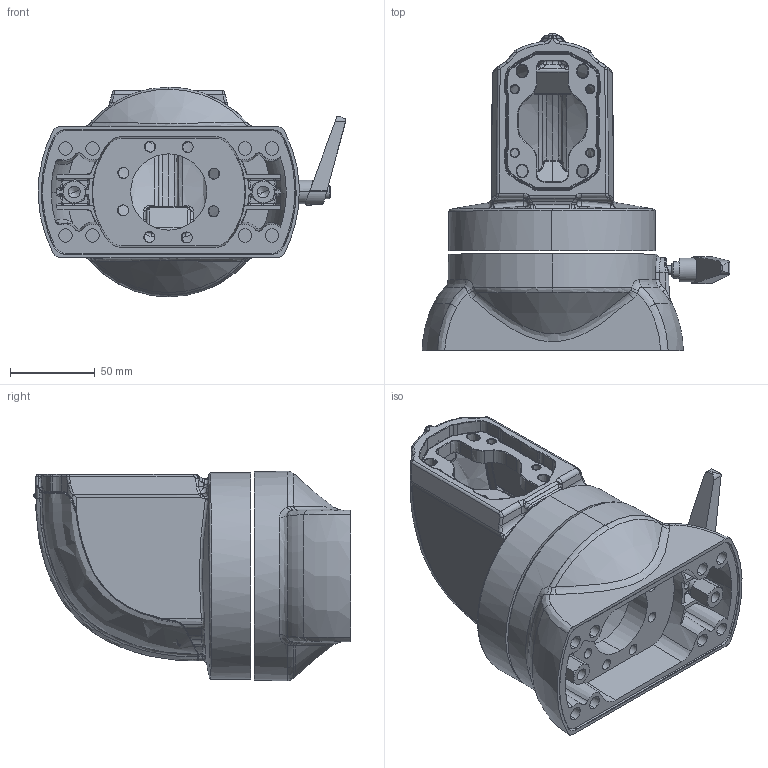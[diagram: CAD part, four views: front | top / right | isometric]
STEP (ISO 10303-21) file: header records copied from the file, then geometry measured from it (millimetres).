
FILE_DESCRIPTION (( 'STEP AP203' ), '1' );
FILE_NAME ('TP.060.2374.STEP', '2026-09-30T08:55:44', ( '' ), ( '' ), 'SwSTEP 2.0', 'SolidWorks 2015', '' );
FILE_SCHEMA (( 'CONFIG_CONTROL_DESIGN' ));
Products named in the file (8): TP.060.Serrated Washer; kapak vida; TP.060.700; TP.060.2374; TP.060.200_1; TP.060.200; Vida Yükseltme_TP060; TP.060.Kapak
Assembly tree (9 placements, depth 3):
  TP.060.2374
    TP.060.700
    TP.060.Serrated Washer
    TP.060.200_1
      TP.060.200
      TP.060.Kapak
    Vida Yükseltme_TP060  x2
    kapak vida  x2
Bounding box: 181.7 x 187.26 x 123.79 mm (x, y, z)
Volume: 304696.1 mm3; surface area: 186308.9 mm2
Topology: 7 solids, 11 shells, 3116 faces, 7678 edges, 4586 vertices
Faces by surface type: bspline 1960, plane 366, cylinder 358, cone 253, torus 133, sphere 46
Entity records: 227383 total; most frequent: CARTESIAN_POINT 171095, ORIENTED_EDGE 14943, EDGE_CURVE 7478, DIRECTION 5307, B_SPLINE_CURVE_WITH_KNOTS 5188, VERTEX_POINT 4489, EDGE_LOOP 3138, FACE_OUTER_BOUND 3040
